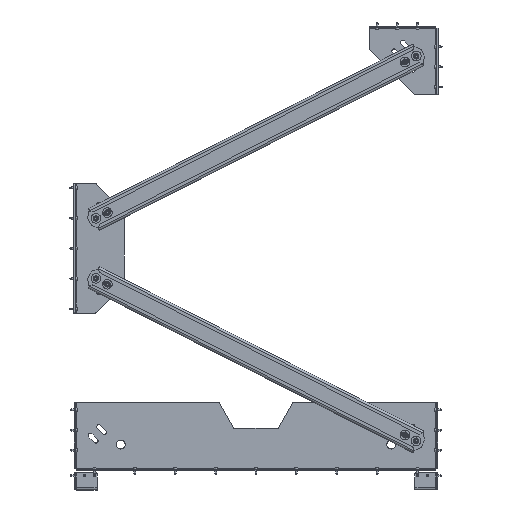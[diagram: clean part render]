
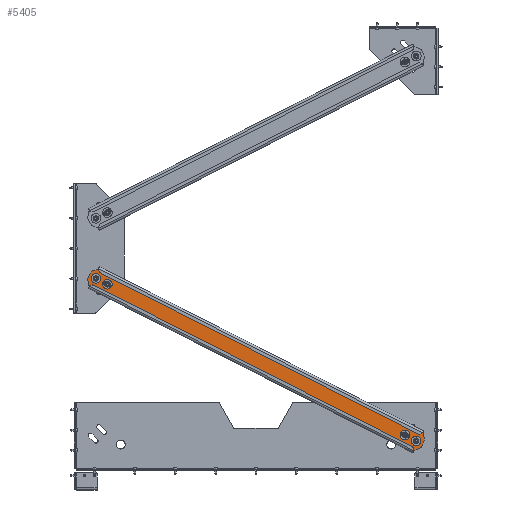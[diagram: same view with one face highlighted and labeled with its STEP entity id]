
A CAD part, front view. The second image highlights one B-rep face of the part: STEP entity #5405.
In plain terms, the highlighted planar face has unit normal (0, -1, 0) as drawn and (-1, 0, 0) by its records, which use the part's own axes.
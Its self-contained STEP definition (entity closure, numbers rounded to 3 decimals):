
#5405=ADVANCED_FACE('',(#8633,#8635,#8637,#8639,#8641),#8643,.T.);
#8633=FACE_BOUND('',#8634,.T.);
#8634=EDGE_LOOP('',(#17695,#17696,#17697,#17698,#17699,#17700,#17701,#17702,#17703,
#17704,#17705,#17706));
#8635=FACE_BOUND('',#8636,.T.);
#8636=EDGE_LOOP('',(#17707,#17708,#17709,#17710));
#8637=FACE_BOUND('',#8638,.T.);
#8638=EDGE_LOOP('',(#17711,#17712,#17713,#17714));
#8639=FACE_BOUND('',#8640,.T.);
#8640=EDGE_LOOP('',(#17715));
#8641=FACE_BOUND('',#8642,.T.);
#8642=EDGE_LOOP('',(#17716));
#8643=PLANE('',#8644);
#8644=AXIS2_PLACEMENT_3D('',#8645,#8646,#8647);
#8645=CARTESIAN_POINT('',(16.5,54.4,0.));
#8646=DIRECTION('',(-1.,0.,0.));
#8647=DIRECTION('',(0.,-1.,0.));
#17695=ORIENTED_EDGE('',*,*,#20427,.F.);
#17696=ORIENTED_EDGE('',*,*,#20428,.T.);
#17697=ORIENTED_EDGE('',*,*,#20429,.F.);
#17698=ORIENTED_EDGE('',*,*,#20407,.T.);
#17699=ORIENTED_EDGE('',*,*,#20404,.T.);
#17700=ORIENTED_EDGE('',*,*,#20402,.T.);
#17701=ORIENTED_EDGE('',*,*,#20430,.F.);
#17702=ORIENTED_EDGE('',*,*,#20431,.F.);
#17703=ORIENTED_EDGE('',*,*,#20432,.F.);
#17704=ORIENTED_EDGE('',*,*,#20400,.T.);
#17705=ORIENTED_EDGE('',*,*,#20397,.F.);
#17706=ORIENTED_EDGE('',*,*,#20409,.T.);
#17707=ORIENTED_EDGE('',*,*,#20433,.T.);
#17708=ORIENTED_EDGE('',*,*,#20434,.T.);
#17709=ORIENTED_EDGE('',*,*,#20435,.T.);
#17710=ORIENTED_EDGE('',*,*,#20436,.T.);
#17711=ORIENTED_EDGE('',*,*,#20437,.T.);
#17712=ORIENTED_EDGE('',*,*,#20438,.T.);
#17713=ORIENTED_EDGE('',*,*,#20439,.T.);
#17714=ORIENTED_EDGE('',*,*,#20440,.T.);
#17715=ORIENTED_EDGE('',*,*,#20441,.T.);
#17716=ORIENTED_EDGE('',*,*,#20442,.T.);
#20397=EDGE_CURVE('',#22570,#22552,#22575,.T.);
#20400=EDGE_CURVE('',#22576,#22552,#22580,.F.);
#20402=EDGE_CURVE('',#22559,#22581,#22584,.F.);
#20404=EDGE_CURVE('',#22563,#22559,#22586,.T.);
#20407=EDGE_CURVE('',#22587,#22563,#22591,.F.);
#20409=EDGE_CURVE('',#22570,#22592,#22595,.F.);
#20427=EDGE_CURVE('',#22627,#22592,#22628,.F.);
#20428=EDGE_CURVE('',#22627,#22629,#22630,.T.);
#20429=EDGE_CURVE('',#22587,#22629,#22631,.F.);
#20430=EDGE_CURVE('',#22632,#22581,#22633,.F.);
#20431=EDGE_CURVE('',#22634,#22632,#22635,.T.);
#20432=EDGE_CURVE('',#22576,#22634,#22636,.F.);
#20433=EDGE_CURVE('',#22637,#22638,#22639,.T.);
#20434=EDGE_CURVE('',#22638,#22640,#22641,.F.);
#20435=EDGE_CURVE('',#22640,#22642,#22643,.T.);
#20436=EDGE_CURVE('',#22642,#22637,#22644,.F.);
#20437=EDGE_CURVE('',#22645,#22646,#22647,.F.);
#20438=EDGE_CURVE('',#22646,#22648,#22649,.T.);
#20439=EDGE_CURVE('',#22648,#22650,#22651,.F.);
#20440=EDGE_CURVE('',#22650,#22645,#22652,.T.);
#20441=EDGE_CURVE('',#22653,#22653,#22654,.T.);
#20442=EDGE_CURVE('',#22655,#22655,#22656,.T.);
#22552=VERTEX_POINT('',#27082);
#22559=VERTEX_POINT('',#27100);
#22563=VERTEX_POINT('',#27111);
#22570=VERTEX_POINT('',#27129);
#22575=LINE('',#27143,#27144);
#22576=VERTEX_POINT('',#27146);
#22580=LINE('',#27154,#27155);
#22581=VERTEX_POINT('',#27157);
#22584=LINE('',#27162,#27163);
#22586=LINE('',#27168,#27169);
#22587=VERTEX_POINT('',#27171);
#22591=LINE('',#27179,#27180);
#22592=VERTEX_POINT('',#27182);
#22595=LINE('',#27187,#27188);
#22627=VERTEX_POINT('',#27265);
#22628=CIRCLE('',#27266,3.);
#22629=VERTEX_POINT('',#27270);
#22630=LINE('',#27271,#27272);
#22631=CIRCLE('',#27274,3.);
#22632=VERTEX_POINT('',#27278);
#22633=CIRCLE('',#27279,3.);
#22634=VERTEX_POINT('',#27283);
#22635=LINE('',#27284,#27285);
#22636=CIRCLE('',#27287,3.);
#22637=VERTEX_POINT('',#27291);
#22638=VERTEX_POINT('',#27292);
#22639=CIRCLE('',#27293,4.5);
#22640=VERTEX_POINT('',#27297);
#22641=LINE('',#27298,#27299);
#22642=VERTEX_POINT('',#27301);
#22643=CIRCLE('',#27302,4.5);
#22644=LINE('',#27306,#27307);
#22645=VERTEX_POINT('',#27309);
#22646=VERTEX_POINT('',#27310);
#22647=LINE('',#27311,#27312);
#22648=VERTEX_POINT('',#27314);
#22649=CIRCLE('',#27315,4.5);
#22650=VERTEX_POINT('',#27319);
#22651=LINE('',#27320,#27321);
#22652=CIRCLE('',#27323,4.5);
#22653=VERTEX_POINT('',#27327);
#22654=CIRCLE('',#27328,4.5);
#22655=VERTEX_POINT('',#27332);
#22656=CIRCLE('',#27333,4.5);
#27082=CARTESIAN_POINT('',(16.5,54.4,913.5));
#27100=CARTESIAN_POINT('',(16.5,5.6,913.5));
#27111=CARTESIAN_POINT('',(16.5,5.6,12.5));
#27129=CARTESIAN_POINT('',(16.5,54.4,12.5));
#27143=CARTESIAN_POINT('',(16.5,54.4,12.5));
#27144=VECTOR('',#27145,1.);
#27145=DIRECTION('',(0.,0.,1.));
#27146=CARTESIAN_POINT('',(16.5,40.846,925.266));
#27154=CARTESIAN_POINT('',(16.5,54.4,913.5));
#27155=VECTOR('',#27156,1.);
#27156=DIRECTION('',(0.,-0.755,0.656));
#27157=CARTESIAN_POINT('',(16.5,19.154,925.266));
#27162=CARTESIAN_POINT('',(16.5,19.154,925.266));
#27163=VECTOR('',#27164,1.);
#27164=DIRECTION('',(0.,-0.755,-0.656));
#27168=CARTESIAN_POINT('',(16.5,5.6,12.5));
#27169=VECTOR('',#27170,1.);
#27170=DIRECTION('',(0.,0.,1.));
#27171=CARTESIAN_POINT('',(16.5,19.154,0.734));
#27179=CARTESIAN_POINT('',(16.5,5.6,12.5));
#27180=VECTOR('',#27181,1.);
#27181=DIRECTION('',(0.,0.755,-0.656));
#27182=CARTESIAN_POINT('',(16.5,40.846,0.734));
#27187=CARTESIAN_POINT('',(16.5,40.846,0.734));
#27188=VECTOR('',#27189,1.);
#27189=DIRECTION('',(0.,0.755,0.656));
#27265=CARTESIAN_POINT('',(16.5,38.88,0.));
#27266=AXIS2_PLACEMENT_3D('',#27267,#27268,#27269);
#27267=CARTESIAN_POINT('',(16.5,38.88,3.));
#27268=DIRECTION('',(-1.,0.,0.));
#27269=DIRECTION('',(0.,0.656,-0.755));
#27270=CARTESIAN_POINT('',(16.5,21.12,0.));
#27271=CARTESIAN_POINT('',(16.5,38.88,0.));
#27272=VECTOR('',#27273,1.);
#27273=DIRECTION('',(0.,-1.,0.));
#27274=AXIS2_PLACEMENT_3D('',#27275,#27276,#27277);
#27275=CARTESIAN_POINT('',(16.5,21.12,3.));
#27276=DIRECTION('',(-1.,0.,0.));
#27277=DIRECTION('',(0.,0.,-1.));
#27278=CARTESIAN_POINT('',(16.5,21.12,926.));
#27279=AXIS2_PLACEMENT_3D('',#27280,#27281,#27282);
#27280=CARTESIAN_POINT('',(16.5,21.12,923.));
#27281=DIRECTION('',(-1.,0.,0.));
#27282=DIRECTION('',(0.,-0.656,0.755));
#27283=CARTESIAN_POINT('',(16.5,38.88,926.));
#27284=CARTESIAN_POINT('',(16.5,38.88,926.));
#27285=VECTOR('',#27286,1.);
#27286=DIRECTION('',(0.,-1.,0.));
#27287=AXIS2_PLACEMENT_3D('',#27288,#27289,#27290);
#27288=CARTESIAN_POINT('',(16.5,38.88,923.));
#27289=DIRECTION('',(-1.,0.,0.));
#27290=DIRECTION('',(0.,0.,1.));
#27291=CARTESIAN_POINT('',(16.5,34.5,882.));
#27292=CARTESIAN_POINT('',(16.5,25.5,882.));
#27293=AXIS2_PLACEMENT_3D('',#27294,#27295,#27296);
#27294=CARTESIAN_POINT('',(16.5,30.,882.));
#27295=DIRECTION('',(1.,0.,0.));
#27296=DIRECTION('',(0.,1.,0.));
#27297=CARTESIAN_POINT('',(16.5,25.5,871.));
#27298=CARTESIAN_POINT('',(16.5,25.5,871.));
#27299=VECTOR('',#27300,1.);
#27300=DIRECTION('',(0.,0.,1.));
#27301=CARTESIAN_POINT('',(16.5,34.5,871.));
#27302=AXIS2_PLACEMENT_3D('',#27303,#27304,#27305);
#27303=CARTESIAN_POINT('',(16.5,30.,871.));
#27304=DIRECTION('',(1.,0.,0.));
#27305=DIRECTION('',(0.,-1.,0.));
#27306=CARTESIAN_POINT('',(16.5,34.5,882.));
#27307=VECTOR('',#27308,1.);
#27308=DIRECTION('',(0.,0.,-1.));
#27309=CARTESIAN_POINT('',(16.5,25.5,55.));
#27310=CARTESIAN_POINT('',(16.5,25.5,44.));
#27311=CARTESIAN_POINT('',(16.5,25.5,44.));
#27312=VECTOR('',#27313,1.);
#27313=DIRECTION('',(0.,0.,1.));
#27314=CARTESIAN_POINT('',(16.5,34.5,44.));
#27315=AXIS2_PLACEMENT_3D('',#27316,#27317,#27318);
#27316=CARTESIAN_POINT('',(16.5,30.,44.));
#27317=DIRECTION('',(1.,0.,0.));
#27318=DIRECTION('',(0.,-1.,0.));
#27319=CARTESIAN_POINT('',(16.5,34.5,55.));
#27320=CARTESIAN_POINT('',(16.5,34.5,55.));
#27321=VECTOR('',#27322,1.);
#27322=DIRECTION('',(0.,0.,-1.));
#27323=AXIS2_PLACEMENT_3D('',#27324,#27325,#27326);
#27324=CARTESIAN_POINT('',(16.5,30.,55.));
#27325=DIRECTION('',(1.,0.,0.));
#27326=DIRECTION('',(0.,1.,0.));
#27327=CARTESIAN_POINT('',(16.5,30.,22.5));
#27328=AXIS2_PLACEMENT_3D('',#27329,#27330,#27331);
#27329=CARTESIAN_POINT('',(16.5,30.,18.));
#27330=DIRECTION('',(1.,0.,0.));
#27331=DIRECTION('',(0.,0.,1.));
#27332=CARTESIAN_POINT('',(16.5,30.,912.5));
#27333=AXIS2_PLACEMENT_3D('',#27334,#27335,#27336);
#27334=CARTESIAN_POINT('',(16.5,30.,908.));
#27335=DIRECTION('',(1.,0.,0.));
#27336=DIRECTION('',(0.,0.,1.));
